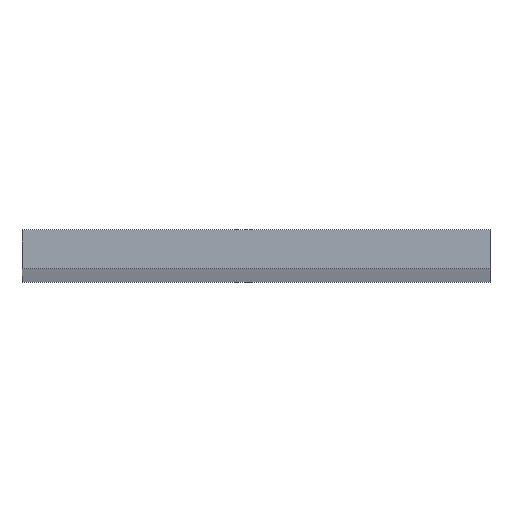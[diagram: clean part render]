
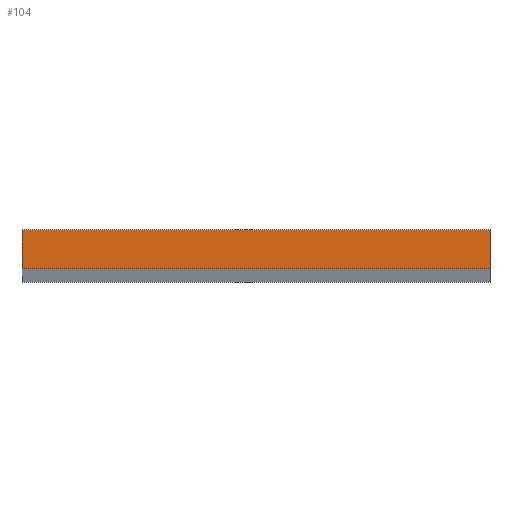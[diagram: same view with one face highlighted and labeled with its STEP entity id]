
A CAD part, top view. The second image highlights one B-rep face of the part: STEP entity #104.
In plain terms, the highlighted planar face has unit normal (0, 0, 1).
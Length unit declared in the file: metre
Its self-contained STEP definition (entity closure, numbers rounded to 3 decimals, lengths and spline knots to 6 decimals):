
#18=FACE_OUTER_BOUND('',#24,.T.);
#24=EDGE_LOOP('',(#86,#87,#88,#89));
#28=LINE('',#149,#40);
#32=LINE('',#156,#44);
#35=LINE('',#162,#47);
#37=LINE('',#165,#49);
#40=VECTOR('',#121,0.005);
#44=VECTOR('',#127,0.06);
#47=VECTOR('',#132,0.005);
#49=VECTOR('',#136,0.06);
#52=VERTEX_POINT('',#146);
#53=VERTEX_POINT('',#148);
#55=VERTEX_POINT('',#154);
#57=VERTEX_POINT('',#160);
#60=EDGE_CURVE('',#53,#52,#28,.T.);
#64=EDGE_CURVE('',#52,#55,#32,.T.);
#67=EDGE_CURVE('',#55,#57,#35,.T.);
#69=EDGE_CURVE('',#57,#53,#37,.T.);
#86=ORIENTED_EDGE('',*,*,#60,.T.);
#87=ORIENTED_EDGE('',*,*,#64,.T.);
#88=ORIENTED_EDGE('',*,*,#67,.T.);
#89=ORIENTED_EDGE('',*,*,#69,.T.);
#98=PLANE('',#113);
#104=ADVANCED_FACE('',(#18),#98,.T.);
#113=AXIS2_PLACEMENT_3D('',#166,#137,#138);
#121=DIRECTION('',(0.,-1.,0.));
#127=DIRECTION('',(1.,0.,0.));
#132=DIRECTION('',(0.,1.,0.));
#136=DIRECTION('',(-1.,0.,0.));
#137=DIRECTION('center_axis',(0.,0.,1.));
#138=DIRECTION('ref_axis',(1.,0.,0.));
#146=CARTESIAN_POINT('',(-0.03,-0.0025,1.));
#148=CARTESIAN_POINT('',(-0.03,0.0025,1.));
#149=CARTESIAN_POINT('',(-0.03,0.0025,1.));
#154=CARTESIAN_POINT('',(0.03,-0.0025,1.));
#156=CARTESIAN_POINT('',(-0.03,-0.0025,1.));
#160=CARTESIAN_POINT('',(0.03,0.0025,1.));
#162=CARTESIAN_POINT('',(0.03,-0.0025,1.));
#165=CARTESIAN_POINT('',(0.03,0.0025,1.));
#166=CARTESIAN_POINT('Origin',(0.,0.,1.));
